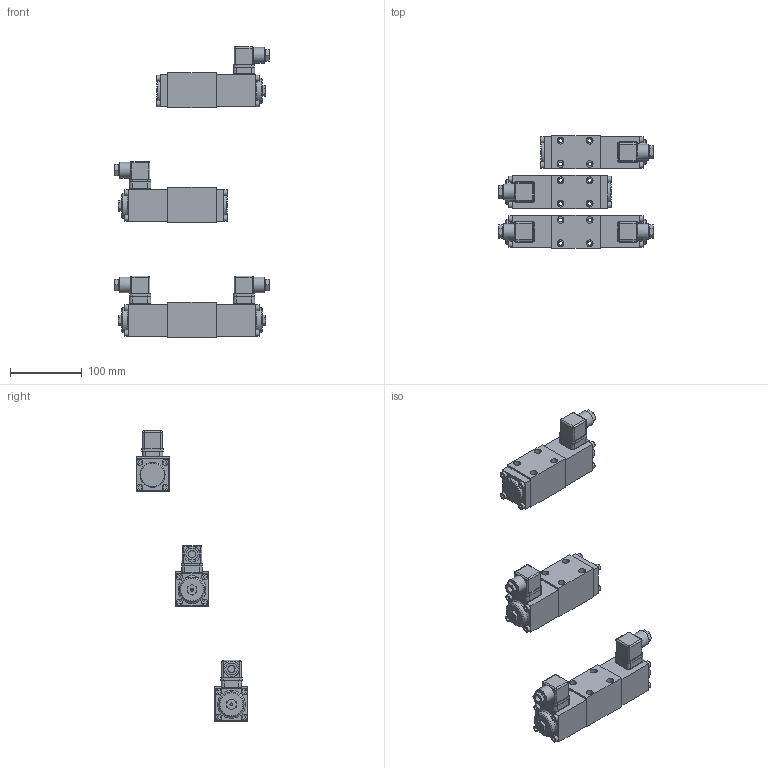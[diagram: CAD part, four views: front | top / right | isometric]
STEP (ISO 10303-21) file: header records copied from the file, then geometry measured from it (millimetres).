
FILE_DESCRIPTION(('Bauteilbeschreibung','HiCAD-Model','HiCAD-STEP-TRANSLATION','Bauteilbeschreibung'),'2;1');
FILE_NAME('D:/WDPFA06.STP','2006-08-21T15:23:29+00:00',('Konstrukteur'),('Konstrukteur Firma GmbH'),'HiCAD3 V1210 STEP 1.6.2005','HiCAD3 V1210','confidential');
FILE_SCHEMA(('AUTOMOTIVE_DESIGN { 1 2 10303 214 0 1 1 1 }'));
Length unit declared in the file: millimetre
Products named in the file (72): WDPFA06; WDPFA06_A_B ; AE177E93; AE93A4EA; AC37BFA3; CA9517B3; CA9517B30; DICHTUNG; A1706669; CF9A8A47; AC37BFA30; CA9517B31; CA9517B32; DICHTUNG0; A17066690; CF9A8A470; IN6KTM5; IN6KTM50; IN6KTM51; IN6KTM52; IN6KTM53; IN6KTM54; IN6KTM55; IN6KTM56; IN6KTM57; IN6KTM58; D82DEE49; D82DEE490; WDPFA06_AC1_S; ABC90B2E; AE93A4EA0; AC37BFA31; CA9517B33; CA9517B34; DICHTUNG1; A17066691; CF9A8A471; IN6KTM59; IN6KTM510; IN6KTM511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
Assembly tree (71 placements, depth 6):
  WDPFA06
    WDPFA06_A_B 
      AE177E93
        AE93A4EA
        AC37BFA3
          CA9517B3
          CA9517B30
            DICHTUNG
          A1706669
          CF9A8A47
        AC37BFA30
          CA9517B31
          CA9517B32
            DICHTUNG0
          A17066690
          CF9A8A470
        IN6KTM5
          IN6KTM50
          IN6KTM51
          IN6KTM52
          IN6KTM53
        IN6KTM54
          IN6KTM55
          IN6KTM56
          IN6KTM57
          IN6KTM58
        D82DEE49
        D82DEE490
    WDPFA06_AC1_S
      ABC90B2E
        AE93A4EA0
        AC37BFA31
          CA9517B33
          CA9517B34
            DICHTUNG1
          A17066691
          CF9A8A471
        IN6KTM59
          IN6KTM510
          IN6KTM511
          IN6KTM512
          IN6KTM513
        D82DEE491
        F77E93F1
        F77E93F10
          IN6KTM514
            IN6KTM515
            IN6KTM516
            IN6KTM517
            IN6KTM518
    WDPFA06_CB2_S
      A1B7CA4D
        AE93A4EA1
        AC37BFA32
          CA9517B35
          CA9517B36
            DICHTUNG2
          A17066692
          CF9A8A472
        IN6KTM519
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Bounding box: 215.5 x 156 x 405 mm (x, y, z)
Volume: 1092691.3 mm3; surface area: 215835.2 mm2
Topology: 61 solids, 61 shells, 1048 faces, 2411 edges, 1603 vertices
Faces by surface type: plane 652, cylinder 306, cone 62, sphere 16, torus 12
Full cylindrical faces by diameter (mm): 1.5 x12, 2.5 x4, 3 x12, 4.2 x4, 4.9 x4, 5 x24, 5.2 x12, 5.5 x24, 6.8 x8, 8 x8, 8.5 x24, 9 x4, 9.5 x12, 10 x4, 12 x4, 12.5 x12, 15 x8, 22 x4, 26 x4, 35 x6
Entity records: 51147 total; most frequent: CARTESIAN_POINT 7858, DIRECTION 5018, ORIENTED_EDGE 4124, COLOUR_RGB 3159, PRESENTATION_STYLE_ASSIGNMENT 3159, OVER_RIDING_STYLED_ITEM 3110, CURVE_STYLE 2062, DRAUGHTING_PRE_DEFINED_CURVE_FONT 2062
